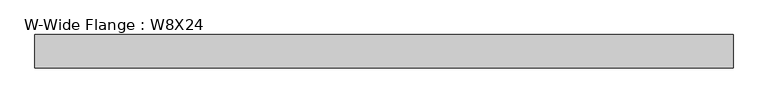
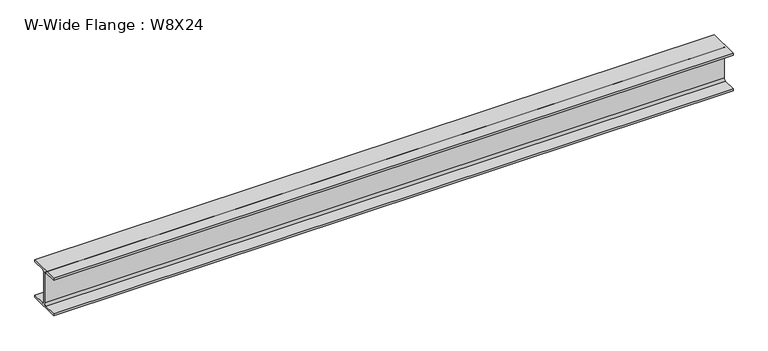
"""IFC4 building model written with IfcOpenShell, lengths in millimetres: beam geometry, W-Wide Flange : W8X24."""

from ifc_helpers import new_model, si_unit, point, frame, frame_2d, origin, place, context, project, spatial, polyline, circle_curve, trimmed, segment, composite_curve, outline, extrude, source, transform, mapped, element, save


def w_wide_flange_w8x24_2efcf998(model_context):
    return source(origin(), model_context, "Body", "SweptSolid", [
        extrude(outline(composite_curve([segment(polyline([(82.55, -90.551), (82.55, -100.711), (-82.55, -100.711), (-82.55, -90.551), (-15.1765, -90.551)]), True, "CONTINUOUS"), segment(trimmed(circle_curve(frame_2d((-15.1765, -78.486)), 12.065), [point((-15.1765, -90.551))], [point((-3.1115, -78.486))], True, "CARTESIAN"), True, "CONTINUOUS"), segment(polyline([(-3.1115, -78.486), (-3.1115, 78.486)]), True, "CONTINUOUS"), segment(trimmed(circle_curve(frame_2d((-15.1765, 78.486)), 12.065), [point((-3.1115, 78.486))], [point((-15.1765, 90.551))], True, "CARTESIAN"), True, "CONTINUOUS"), segment(polyline([(-15.1765, 90.551), (-82.55, 90.551), (-82.55, 100.711), (82.55, 100.711), (82.55, 90.551), (15.1765, 90.551)]), True, "CONTINUOUS"), segment(trimmed(circle_curve(frame_2d((15.1765, 78.486)), 12.065), [point((15.1765, 90.551))], [point((3.1115, 78.486))], True, "CARTESIAN"), True, "CONTINUOUS"), segment(polyline([(3.1115, 78.486), (3.1115, -78.486)]), True, "CONTINUOUS"), segment(trimmed(circle_curve(frame_2d((15.1765, -78.486)), 12.065), [point((3.1115, -78.486))], [point((15.1765, -90.551))], True, "CARTESIAN"), True, "CONTINUOUS"), segment(polyline([(15.1765, -90.551), (82.55, -90.551)]), True, "CONTINUOUS")], self_intersect=False)), frame((-1660.525, 0.0, 0.0), z_axis=(1.0, 0.0, 0.0), x_axis=(0.0, 1.0, 0.0)), (0.0, 0.0, 1.0), 3473.4499994),
    ])


if __name__ == "__main__":
    model = new_model("IFC4")
    model_context = context("Model", 3, world=origin())
    ifc_project = project(units=[si_unit("LENGTHUNIT", "METRE", prefix="MILLI")], contexts=[model_context])
    site = spatial("IfcSite", under=ifc_project)
    building = spatial("IfcBuilding", under=site)
    placement = place(None, origin())
    w_wide_flange_w8x24_shape = w_wide_flange_w8x24_2efcf998(model_context)
    element("IfcBeam", 1, ObjectType="W-Wide Flange : W8X24", at=placement, inside=building, context=model_context, shape_type="MappedRepresentation", body=[
        mapped(w_wide_flange_w8x24_shape, transform((0.0, 0.0, 0.0), x_axis=(1.0, 0.0, 0.0), y_axis=(0.0, 1.0, 0.0), z_axis=(0.0, 0.0, 1.0))),
    ])
    save(model, "model.ifc")
